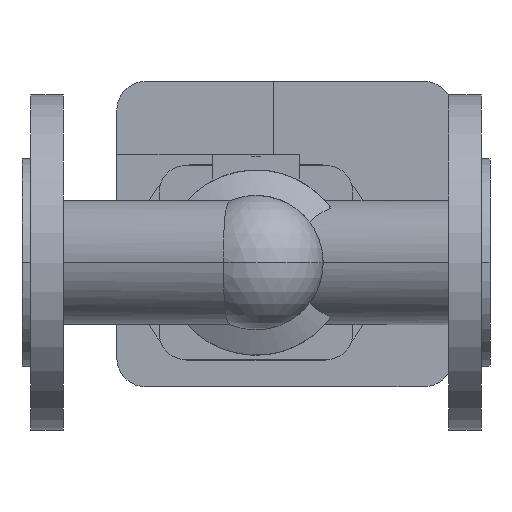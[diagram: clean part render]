
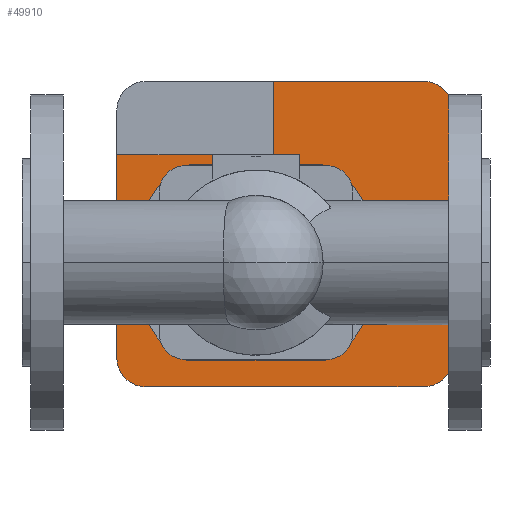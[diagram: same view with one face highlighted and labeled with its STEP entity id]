
A CAD part, front view. The second image highlights one B-rep face of the part: STEP entity #49910.
In plain terms, the highlighted planar face has unit normal (0, -1, 0).
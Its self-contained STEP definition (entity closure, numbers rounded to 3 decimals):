
#35630=CARTESIAN_POINT('',(174.96,326.,11.216));
#35640=VERTEX_POINT('',#35630);
#35670=CARTESIAN_POINT('',(165.,326.,0.));
#35680=DIRECTION('',(0.,1.,0.));
#35690=DIRECTION('',(0.,0.,1.));
#35700=AXIS2_PLACEMENT_3D('',#35670,#35680,#35690);
#35710=CIRCLE('',#35700,15.);
#35720=CARTESIAN_POINT('',(174.96,326.,-11.216));
#35730=VERTEX_POINT('',#35720);
#35740=EDGE_CURVE('',#35640,#35730,#35710,.T.);
#38460=CARTESIAN_POINT('',(157.116,326.,44.128));
#38470=VERTEX_POINT('',#38460);
#38500=CARTESIAN_POINT('',(115.,326.,0.));
#38510=DIRECTION('',(0.,1.,0.));
#38520=DIRECTION('',(0.69,0.,0.723));
#38530=AXIS2_PLACEMENT_3D('',#38500,#38510,#38520);
#38540=CIRCLE('',#38530,61.);
#38550=EDGE_CURVE('',#38470,#35640,#38540,.T.);
#38940=CARTESIAN_POINT('',(55.04,326.,-11.216));
#38950=VERTEX_POINT('',#38940);
#38980=CARTESIAN_POINT('',(65.,326.,0.));
#38990=DIRECTION('',(0.,1.,0.));
#39000=DIRECTION('',(0.,0.,-1.));
#39010=AXIS2_PLACEMENT_3D('',#38980,#38990,#39000);
#39020=CIRCLE('',#39010,15.);
#39030=CARTESIAN_POINT('',(55.04,326.,11.216));
#39040=VERTEX_POINT('',#39030);
#39050=EDGE_CURVE('',#38950,#39040,#39020,.T.);
#40040=CARTESIAN_POINT('',(72.884,326.,-44.128));
#40050=VERTEX_POINT('',#40040);
#40080=CARTESIAN_POINT('',(115.,326.,0.));
#40090=DIRECTION('',(0.,1.,0.));
#40100=DIRECTION('',(-0.69,0.,-0.723));
#40110=AXIS2_PLACEMENT_3D('',#40080,#40090,#40100);
#40120=CIRCLE('',#40110,61.);
#40130=EDGE_CURVE('',#40050,#38950,#40120,.T.);
#45780=CARTESIAN_POINT('',(211.6,326.,-47.));
#45790=VERTEX_POINT('',#45780);
#45820=CARTESIAN_POINT('',(211.6,326.,75.));
#45830=DIRECTION('',(0.,0.,-1.));
#45840=VECTOR('',#45830,1.);
#45850=LINE('',#45820,#45840);
#45860=CARTESIAN_POINT('',(211.6,326.,75.));
#45870=VERTEX_POINT('',#45860);
#45880=EDGE_CURVE('',#45870,#45790,#45850,.T.);
#46170=CARTESIAN_POINT('',(197.6,326.,75.));
#46180=DIRECTION('',(0.,1.,0.));
#46190=DIRECTION('',(0.,0.,1.));
#46200=AXIS2_PLACEMENT_3D('',#46170,#46180,#46190);
#46210=CIRCLE('',#46200,14.);
#46220=CARTESIAN_POINT('',(197.6,326.,89.));
#46230=VERTEX_POINT('',#46220);
#46240=EDGE_CURVE('',#46230,#45870,#46210,.T.);
#46870=CARTESIAN_POINT('',(60.6,326.,-61.));
#46880=VERTEX_POINT('',#46870);
#46910=CARTESIAN_POINT('',(197.6,326.,-61.));
#46920=DIRECTION('',(-1.,0.,0.));
#46930=VECTOR('',#46920,1.);
#46940=LINE('',#46910,#46930);
#46950=CARTESIAN_POINT('',(197.6,326.,-61.));
#46960=VERTEX_POINT('',#46950);
#46970=EDGE_CURVE('',#46960,#46880,#46940,.T.);
#47340=CARTESIAN_POINT('',(72.884,326.,44.128));
#47350=VERTEX_POINT('',#47340);
#47380=CARTESIAN_POINT('',(82.55,326.,34.));
#47390=DIRECTION('',(0.,1.,0.));
#47400=DIRECTION('',(-0.69,0.,0.723));
#47410=AXIS2_PLACEMENT_3D('',#47380,#47390,#47400);
#47420=CIRCLE('',#47410,14.);
#47430=CARTESIAN_POINT('',(82.55,326.,48.));
#47440=VERTEX_POINT('',#47430);
#47450=EDGE_CURVE('',#47350,#47440,#47420,.T.);
#47630=CARTESIAN_POINT('',(98.775,326.,48.));
#47640=DIRECTION('',(1.,0.,0.));
#47650=VECTOR('',#47640,1.);
#47660=LINE('',#47630,#47650);
#47670=CARTESIAN_POINT('',(147.45,326.,48.));
#47680=VERTEX_POINT('',#47670);
#47690=EDGE_CURVE('',#47440,#47680,#47660,.T.);
#47870=CARTESIAN_POINT('',(147.45,326.,34.));
#47880=DIRECTION('',(0.,1.,0.));
#47890=DIRECTION('',(0.,0.,1.));
#47900=AXIS2_PLACEMENT_3D('',#47870,#47880,#47890);
#47910=CIRCLE('',#47900,14.);
#47920=EDGE_CURVE('',#47680,#38470,#47910,.T.);
#48040=CARTESIAN_POINT('',(115.,326.,0.));
#48050=DIRECTION('',(0.,1.,0.));
#48060=DIRECTION('',(0.69,0.,0.723));
#48070=AXIS2_PLACEMENT_3D('',#48040,#48050,#48060);
#48080=CIRCLE('',#48070,61.);
#48090=CARTESIAN_POINT('',(157.116,326.,-44.128));
#48100=VERTEX_POINT('',#48090);
#48110=EDGE_CURVE('',#35730,#48100,#48080,.T.);
#48300=CARTESIAN_POINT('',(147.45,326.,-34.));
#48310=DIRECTION('',(0.,1.,0.));
#48320=DIRECTION('',(0.69,0.,-0.723));
#48330=AXIS2_PLACEMENT_3D('',#48300,#48310,#48320);
#48340=CIRCLE('',#48330,14.);
#48350=CARTESIAN_POINT('',(147.45,326.,-48.));
#48360=VERTEX_POINT('',#48350);
#48370=EDGE_CURVE('',#48100,#48360,#48340,.T.);
#48550=CARTESIAN_POINT('',(131.225,326.,-48.));
#48560=DIRECTION('',(-1.,0.,0.));
#48570=VECTOR('',#48560,1.);
#48580=LINE('',#48550,#48570);
#48590=CARTESIAN_POINT('',(82.55,326.,-48.));
#48600=VERTEX_POINT('',#48590);
#48610=EDGE_CURVE('',#48360,#48600,#48580,.T.);
#48790=CARTESIAN_POINT('',(82.55,326.,-34.));
#48800=DIRECTION('',(0.,1.,0.));
#48810=DIRECTION('',(0.,0.,-1.));
#48820=AXIS2_PLACEMENT_3D('',#48790,#48800,#48810);
#48830=CIRCLE('',#48820,14.);
#48840=EDGE_CURVE('',#48600,#40050,#48830,.T.);
#48960=CARTESIAN_POINT('',(115.,326.,0.));
#48970=DIRECTION('',(0.,1.,0.));
#48980=DIRECTION('',(-0.69,0.,-0.723));
#48990=AXIS2_PLACEMENT_3D('',#48960,#48970,#48980);
#49000=CIRCLE('',#48990,61.);
#49010=EDGE_CURVE('',#39040,#47350,#49000,.T.);
#49150=CARTESIAN_POINT('',(197.6,326.,-47.));
#49160=DIRECTION('',(0.,1.,0.));
#49170=DIRECTION('',(1.,0.,0.));
#49180=AXIS2_PLACEMENT_3D('',#49150,#49160,#49170);
#49190=CIRCLE('',#49180,14.);
#49200=EDGE_CURVE('',#45790,#46960,#49190,.T.);
#49270=CARTESIAN_POINT('',(115.,326.,0.));
#49280=DIRECTION('',(0.,1.,0.));
#49290=DIRECTION('',(0.,0.,1.));
#49300=AXIS2_PLACEMENT_3D('',#49270,#49280,#49290);
#49310=PLANE('',#49300);
#49320=ORIENTED_EDGE('',*,*,#38550,.T.);
#49330=ORIENTED_EDGE('',*,*,#47920,.T.);
#49340=ORIENTED_EDGE('',*,*,#47690,.T.);
#49350=ORIENTED_EDGE('',*,*,#47450,.T.);
#49360=ORIENTED_EDGE('',*,*,#49010,.T.);
#49370=ORIENTED_EDGE('',*,*,#39050,.T.);
#49380=ORIENTED_EDGE('',*,*,#40130,.T.);
#49390=ORIENTED_EDGE('',*,*,#48840,.T.);
#49400=ORIENTED_EDGE('',*,*,#48610,.T.);
#49410=ORIENTED_EDGE('',*,*,#48370,.T.);
#49420=ORIENTED_EDGE('',*,*,#48110,.T.);
#49430=ORIENTED_EDGE('',*,*,#35740,.T.);
#49440=EDGE_LOOP('',(#49430,#49420,#49410,#49400,#49390,#49380,#49370,
#49360,#49350,#49340,#49330,#49320));
#49450=FACE_BOUND('',#49440,.T.);
#49460=CARTESIAN_POINT('',(123.6,326.,26.5));
#49470=DIRECTION('',(0.,0.,-1.));
#49480=VECTOR('',#49470,1.);
#49490=LINE('',#49460,#49480);
#49500=CARTESIAN_POINT('',(123.6,326.,89.));
#49510=VERTEX_POINT('',#49500);
#49520=CARTESIAN_POINT('',(123.6,326.,53.));
#49530=VERTEX_POINT('',#49520);
#49540=EDGE_CURVE('',#49510,#49530,#49490,.T.);
#49550=ORIENTED_EDGE('',*,*,#49540,.T.);
#49560=CARTESIAN_POINT('',(60.6,326.,89.));
#49570=DIRECTION('',(1.,0.,0.));
#49580=VECTOR('',#49570,1.);
#49590=LINE('',#49560,#49580);
#49600=EDGE_CURVE('',#49510,#46230,#49590,.T.);
#49610=ORIENTED_EDGE('',*,*,#49600,.F.);
#49620=ORIENTED_EDGE('',*,*,#46240,.F.);
#49630=ORIENTED_EDGE('',*,*,#45880,.F.);
#49640=ORIENTED_EDGE('',*,*,#49200,.F.);
#49650=ORIENTED_EDGE('',*,*,#46970,.F.);
#49660=CARTESIAN_POINT('',(60.6,326.,-47.));
#49670=DIRECTION('',(0.,1.,0.));
#49680=DIRECTION('',(0.,0.,-1.));
#49690=AXIS2_PLACEMENT_3D('',#49660,#49670,#49680);
#49700=CIRCLE('',#49690,14.);
#49710=CARTESIAN_POINT('',(46.6,326.,-47.));
#49720=VERTEX_POINT('',#49710);
#49730=EDGE_CURVE('',#46880,#49720,#49700,.T.);
#49740=ORIENTED_EDGE('',*,*,#49730,.F.);
#49750=CARTESIAN_POINT('',(46.6,326.,-47.));
#49760=DIRECTION('',(0.,0.,1.));
#49770=VECTOR('',#49760,1.);
#49780=LINE('',#49750,#49770);
#49790=CARTESIAN_POINT('',(46.6,326.,53.));
#49800=VERTEX_POINT('',#49790);
#49810=EDGE_CURVE('',#49720,#49800,#49780,.T.);
#49820=ORIENTED_EDGE('',*,*,#49810,.F.);
#49830=CARTESIAN_POINT('',(80.3,326.,53.));
#49840=DIRECTION('',(-1.,0.,0.));
#49850=VECTOR('',#49840,1.);
#49860=LINE('',#49830,#49850);
#49870=EDGE_CURVE('',#49530,#49800,#49860,.T.);
#49880=ORIENTED_EDGE('',*,*,#49870,.T.);
#49890=EDGE_LOOP('',(#49880,#49820,#49740,#49650,#49640,#49630,#49620,
#49610,#49550));
#49900=FACE_OUTER_BOUND('',#49890,.T.);
#49910=ADVANCED_FACE('',(#49450,#49900),#49310,.F.);
